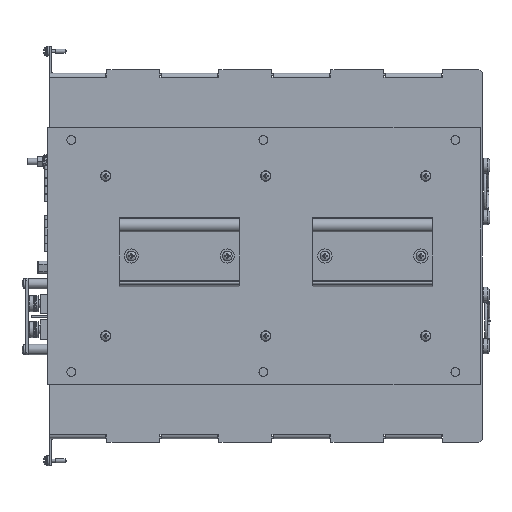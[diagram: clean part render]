
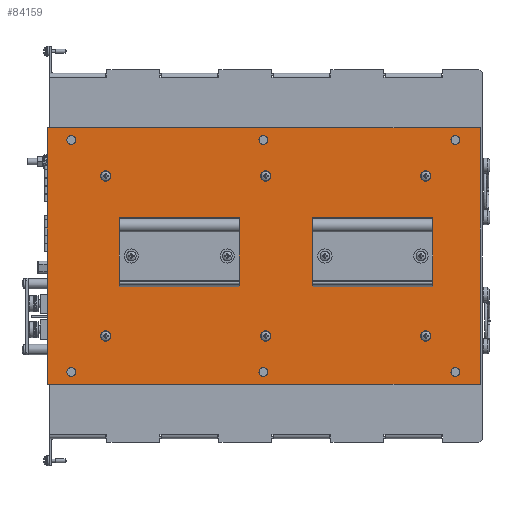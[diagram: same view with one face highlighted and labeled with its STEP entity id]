
A CAD part, front view. The second image highlights one B-rep face of the part: STEP entity #84159.
In plain terms, the highlighted planar face has unit normal (0, -1, 0) as drawn and (0, 0, -1) by its records, which use the part's own axes.
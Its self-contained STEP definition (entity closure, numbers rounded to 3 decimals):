
#7344=LINE('',#140253,#12783);
#7345=LINE('',#140256,#12784);
#7346=LINE('',#140258,#12785);
#7347=LINE('',#140260,#12786);
#12783=VECTOR('',#103358,1000.);
#12784=VECTOR('',#103359,1000.);
#12785=VECTOR('',#103360,1000.);
#12786=VECTOR('',#103361,1000.);
#15102=PLANE('',#89265);
#30551=ORIENTED_EDGE('',*,*,#41458,.F.);
#30552=ORIENTED_EDGE('',*,*,#41459,.F.);
#30553=ORIENTED_EDGE('',*,*,#41460,.F.);
#30554=ORIENTED_EDGE('',*,*,#41461,.F.);
#30555=ORIENTED_EDGE('',*,*,#41456,.T.);
#30556=ORIENTED_EDGE('',*,*,#41453,.T.);
#30557=ORIENTED_EDGE('',*,*,#41450,.T.);
#30558=ORIENTED_EDGE('',*,*,#41447,.T.);
#30559=ORIENTED_EDGE('',*,*,#41444,.T.);
#30560=ORIENTED_EDGE('',*,*,#41441,.T.);
#30561=ORIENTED_EDGE('',*,*,#41438,.T.);
#30562=ORIENTED_EDGE('',*,*,#41435,.T.);
#30563=ORIENTED_EDGE('',*,*,#41432,.T.);
#30564=ORIENTED_EDGE('',*,*,#41429,.T.);
#30565=ORIENTED_EDGE('',*,*,#41427,.T.);
#30566=ORIENTED_EDGE('',*,*,#41425,.T.);
#30567=ORIENTED_EDGE('',*,*,#41423,.T.);
#30568=ORIENTED_EDGE('',*,*,#41421,.T.);
#30569=ORIENTED_EDGE('',*,*,#41419,.T.);
#30570=ORIENTED_EDGE('',*,*,#41417,.T.);
#41417=EDGE_CURVE('',#48385,#48385,#51292,.T.);
#41419=EDGE_CURVE('',#48387,#48387,#51294,.T.);
#41421=EDGE_CURVE('',#48389,#48389,#51296,.T.);
#41423=EDGE_CURVE('',#48391,#48391,#51298,.T.);
#41425=EDGE_CURVE('',#48393,#48393,#51300,.T.);
#41427=EDGE_CURVE('',#48395,#48395,#51302,.T.);
#41429=EDGE_CURVE('',#48397,#48397,#51304,.T.);
#41432=EDGE_CURVE('',#48400,#48400,#51307,.T.);
#41435=EDGE_CURVE('',#48403,#48403,#51310,.T.);
#41438=EDGE_CURVE('',#48406,#48406,#51313,.T.);
#41441=EDGE_CURVE('',#48409,#48409,#51316,.T.);
#41444=EDGE_CURVE('',#48412,#48412,#51319,.T.);
#41447=EDGE_CURVE('',#48415,#48415,#51322,.T.);
#41450=EDGE_CURVE('',#48418,#48418,#51325,.T.);
#41453=EDGE_CURVE('',#48421,#48421,#51328,.T.);
#41456=EDGE_CURVE('',#48424,#48424,#51331,.T.);
#41458=EDGE_CURVE('',#48426,#48427,#7344,.T.);
#41459=EDGE_CURVE('',#48428,#48426,#7345,.T.);
#41460=EDGE_CURVE('',#48429,#48428,#7346,.T.);
#41461=EDGE_CURVE('',#48427,#48429,#7347,.T.);
#48385=VERTEX_POINT('',#140146);
#48387=VERTEX_POINT('',#140151);
#48389=VERTEX_POINT('',#140156);
#48391=VERTEX_POINT('',#140161);
#48393=VERTEX_POINT('',#140166);
#48395=VERTEX_POINT('',#140171);
#48397=VERTEX_POINT('',#140176);
#48400=VERTEX_POINT('',#140184);
#48403=VERTEX_POINT('',#140192);
#48406=VERTEX_POINT('',#140200);
#48409=VERTEX_POINT('',#140208);
#48412=VERTEX_POINT('',#140216);
#48415=VERTEX_POINT('',#140224);
#48418=VERTEX_POINT('',#140232);
#48421=VERTEX_POINT('',#140240);
#48424=VERTEX_POINT('',#140248);
#48426=VERTEX_POINT('',#140254);
#48427=VERTEX_POINT('',#140255);
#48428=VERTEX_POINT('',#140257);
#48429=VERTEX_POINT('',#140259);
#51292=CIRCLE('',#89199,2.75);
#51294=CIRCLE('',#89202,2.75);
#51296=CIRCLE('',#89205,2.75);
#51298=CIRCLE('',#89208,2.75);
#51300=CIRCLE('',#89211,2.75);
#51302=CIRCLE('',#89214,2.75);
#51304=CIRCLE('',#89217,3.25);
#51307=CIRCLE('',#89222,3.25);
#51310=CIRCLE('',#89227,3.25);
#51313=CIRCLE('',#89232,3.25);
#51316=CIRCLE('',#89237,3.25);
#51319=CIRCLE('',#89242,3.25);
#51322=CIRCLE('',#89247,3.25);
#51325=CIRCLE('',#89252,3.25);
#51328=CIRCLE('',#89257,3.25);
#51331=CIRCLE('',#89262,3.25);
#55713=EDGE_LOOP('',(#30551,#30552,#30553,#30554));
#55714=EDGE_LOOP('',(#30555));
#55715=EDGE_LOOP('',(#30556));
#55716=EDGE_LOOP('',(#30557));
#55717=EDGE_LOOP('',(#30558));
#55718=EDGE_LOOP('',(#30559));
#55719=EDGE_LOOP('',(#30560));
#55720=EDGE_LOOP('',(#30561));
#55721=EDGE_LOOP('',(#30562));
#55722=EDGE_LOOP('',(#30563));
#55723=EDGE_LOOP('',(#30564));
#55724=EDGE_LOOP('',(#30565));
#55725=EDGE_LOOP('',(#30566));
#55726=EDGE_LOOP('',(#30567));
#55727=EDGE_LOOP('',(#30568));
#55728=EDGE_LOOP('',(#30569));
#55729=EDGE_LOOP('',(#30570));
#60598=FACE_BOUND('',#55713,.T.);
#60599=FACE_BOUND('',#55714,.T.);
#60600=FACE_BOUND('',#55715,.T.);
#60601=FACE_BOUND('',#55716,.T.);
#60602=FACE_BOUND('',#55717,.T.);
#60603=FACE_BOUND('',#55718,.T.);
#60604=FACE_BOUND('',#55719,.T.);
#60605=FACE_BOUND('',#55720,.T.);
#60606=FACE_BOUND('',#55721,.T.);
#60607=FACE_BOUND('',#55722,.T.);
#60608=FACE_BOUND('',#55723,.T.);
#60609=FACE_BOUND('',#55724,.T.);
#60610=FACE_BOUND('',#55725,.T.);
#60611=FACE_BOUND('',#55726,.T.);
#60612=FACE_BOUND('',#55727,.T.);
#60613=FACE_BOUND('',#55728,.T.);
#60614=FACE_BOUND('',#55729,.T.);
#84159=ADVANCED_FACE('',(#60598,#60599,#60600,#60601,#60602,#60603,#60604,
#60605,#60606,#60607,#60608,#60609,#60610,#60611,#60612,#60613,#60614),
#15102,.F.);
#89199=AXIS2_PLACEMENT_3D('',#140145,#103224,#103225);
#89202=AXIS2_PLACEMENT_3D('',#140150,#103230,#103231);
#89205=AXIS2_PLACEMENT_3D('',#140155,#103236,#103237);
#89208=AXIS2_PLACEMENT_3D('',#140160,#103242,#103243);
#89211=AXIS2_PLACEMENT_3D('',#140165,#103248,#103249);
#89214=AXIS2_PLACEMENT_3D('',#140170,#103254,#103255);
#89217=AXIS2_PLACEMENT_3D('',#140175,#103260,#103261);
#89222=AXIS2_PLACEMENT_3D('',#140183,#103270,#103271);
#89227=AXIS2_PLACEMENT_3D('',#140191,#103280,#103281);
#89232=AXIS2_PLACEMENT_3D('',#140199,#103290,#103291);
#89237=AXIS2_PLACEMENT_3D('',#140207,#103300,#103301);
#89242=AXIS2_PLACEMENT_3D('',#140215,#103310,#103311);
#89247=AXIS2_PLACEMENT_3D('',#140223,#103320,#103321);
#89252=AXIS2_PLACEMENT_3D('',#140231,#103330,#103331);
#89257=AXIS2_PLACEMENT_3D('',#140239,#103340,#103341);
#89262=AXIS2_PLACEMENT_3D('',#140247,#103350,#103351);
#89265=AXIS2_PLACEMENT_3D('',#140252,#103356,#103357);
#103224=DIRECTION('',(0.,0.,1.));
#103225=DIRECTION('',(1.,0.,0.));
#103230=DIRECTION('',(0.,0.,1.));
#103231=DIRECTION('',(1.,0.,0.));
#103236=DIRECTION('',(0.,0.,1.));
#103237=DIRECTION('',(1.,0.,0.));
#103242=DIRECTION('',(0.,0.,1.));
#103243=DIRECTION('',(1.,0.,0.));
#103248=DIRECTION('',(0.,0.,1.));
#103249=DIRECTION('',(1.,0.,0.));
#103254=DIRECTION('',(0.,0.,1.));
#103255=DIRECTION('',(1.,0.,0.));
#103260=DIRECTION('',(0.,0.,1.));
#103261=DIRECTION('',(0.,-1.,0.));
#103270=DIRECTION('',(0.,0.,1.));
#103271=DIRECTION('',(0.,-1.,0.));
#103280=DIRECTION('',(0.,0.,1.));
#103281=DIRECTION('',(0.,-1.,0.));
#103290=DIRECTION('',(0.,0.,1.));
#103291=DIRECTION('',(0.,-1.,0.));
#103300=DIRECTION('',(0.,0.,1.));
#103301=DIRECTION('',(0.,-1.,0.));
#103310=DIRECTION('',(0.,0.,1.));
#103311=DIRECTION('',(0.,-1.,0.));
#103320=DIRECTION('',(0.,0.,1.));
#103321=DIRECTION('',(0.,-1.,0.));
#103330=DIRECTION('',(0.,0.,1.));
#103331=DIRECTION('',(0.,-1.,0.));
#103340=DIRECTION('',(0.,0.,1.));
#103341=DIRECTION('',(0.,-1.,0.));
#103350=DIRECTION('',(0.,0.,1.));
#103351=DIRECTION('',(0.,-1.,0.));
#103356=DIRECTION('',(0.,0.,1.));
#103357=DIRECTION('',(1.,0.,0.));
#103358=DIRECTION('',(0.,-1.,0.));
#103359=DIRECTION('',(-1.,0.,0.));
#103360=DIRECTION('',(0.,1.,0.));
#103361=DIRECTION('',(1.,0.,0.));
#140145=CARTESIAN_POINT('',(-120.25,87.5,0.));
#140146=CARTESIAN_POINT('',(-117.5,87.5,0.));
#140150=CARTESIAN_POINT('',(119.75,-57.5,0.));
#140151=CARTESIAN_POINT('',(122.5,-57.5,0.));
#140155=CARTESIAN_POINT('',(119.75,87.5,0.));
#140156=CARTESIAN_POINT('',(122.5,87.5,0.));
#140160=CARTESIAN_POINT('',(-120.25,-57.5,0.));
#140161=CARTESIAN_POINT('',(-117.5,-57.5,0.));
#140165=CARTESIAN_POINT('',(-0.25,-57.5,0.));
#140166=CARTESIAN_POINT('',(2.5,-57.5,0.));
#140170=CARTESIAN_POINT('',(-0.25,87.5,0.));
#140171=CARTESIAN_POINT('',(2.5,87.5,0.));
#140175=CARTESIAN_POINT('',(98.249,15.,0.));
#140176=CARTESIAN_POINT('',(98.249,11.75,0.));
#140183=CARTESIAN_POINT('',(38.249,15.,0.));
#140184=CARTESIAN_POINT('',(38.249,11.75,0.));
#140191=CARTESIAN_POINT('',(-22.753,15.,0.));
#140192=CARTESIAN_POINT('',(-22.753,11.75,0.));
#140199=CARTESIAN_POINT('',(-82.753,15.,0.));
#140200=CARTESIAN_POINT('',(-82.753,11.75,0.));
#140207=CARTESIAN_POINT('',(-98.749,64.998,0.));
#140208=CARTESIAN_POINT('',(-98.749,61.748,0.));
#140215=CARTESIAN_POINT('',(1.251,64.998,0.));
#140216=CARTESIAN_POINT('',(1.251,61.748,0.));
#140223=CARTESIAN_POINT('',(101.251,64.998,0.));
#140224=CARTESIAN_POINT('',(101.251,61.748,0.));
#140231=CARTESIAN_POINT('',(101.251,-35.002,0.));
#140232=CARTESIAN_POINT('',(101.251,-38.252,0.));
#140239=CARTESIAN_POINT('',(1.251,-35.002,0.));
#140240=CARTESIAN_POINT('',(1.251,-38.252,0.));
#140247=CARTESIAN_POINT('',(-98.749,-35.002,0.));
#140248=CARTESIAN_POINT('',(-98.749,-38.252,0.));
#140252=CARTESIAN_POINT('',(-135.25,-65.,0.));
#140253=CARTESIAN_POINT('',(-135.25,95.,0.));
#140254=CARTESIAN_POINT('',(-135.25,95.,0.));
#140255=CARTESIAN_POINT('',(-135.25,-65.,0.));
#140256=CARTESIAN_POINT('',(135.25,95.,0.));
#140257=CARTESIAN_POINT('',(135.25,95.,0.));
#140258=CARTESIAN_POINT('',(135.25,-65.,0.));
#140259=CARTESIAN_POINT('',(135.25,-65.,0.));
#140260=CARTESIAN_POINT('',(-135.25,-65.,0.));
